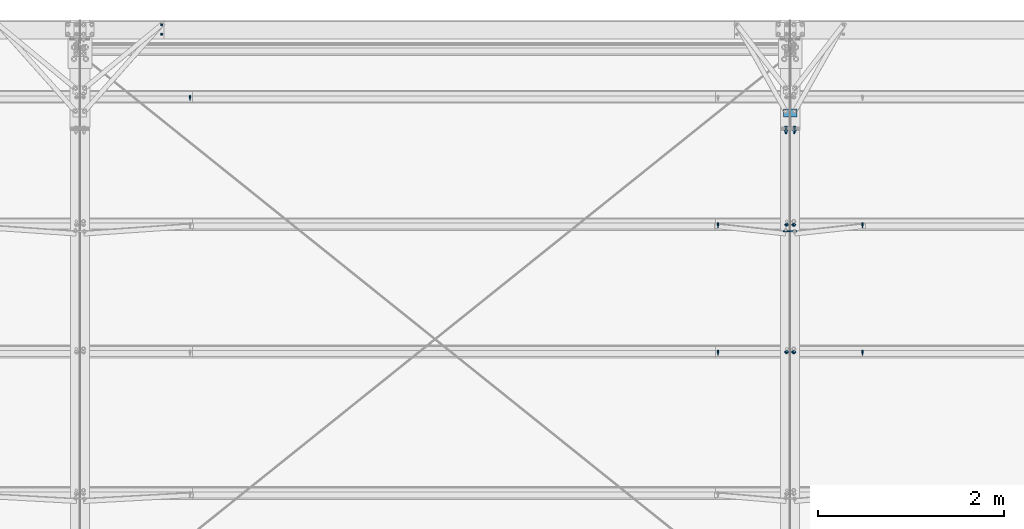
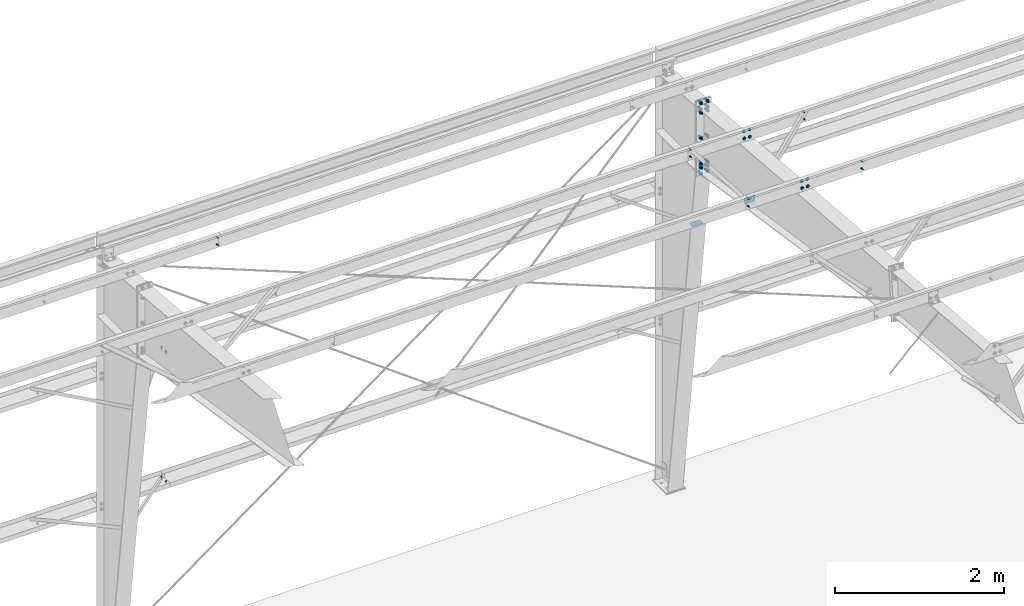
# One storey, part 91 of 185: 14 mechanical fasteners, 4 discrete accessories, 9 elements without a shape of their own.
"""IFC2X3 building model written with IfcOpenShell, lengths in millimetres."""

from ifc_helpers import new_model, si_unit, frame, origin_with_axes, origin_2d_with_axis, place, context, subcontext, project, spatial, polyline, rectangle, circle, outline, extrude, source, transform, mapped, material, type_object, element, aggregate, save


model = new_model("IFC2X3")

# Units and contexts
model_context = context("Model", 3, precision=1e-05, world=origin_with_axes())
body_context = subcontext(model_context, "Body", "Model", "MODEL_VIEW")
ifc_project = project(units=[si_unit("LENGTHUNIT", "METRE", prefix="MILLI"), si_unit("AREAUNIT", "SQUARE_METRE"), si_unit("VOLUMEUNIT", "CUBIC_METRE"), si_unit("MASSUNIT", "GRAM", prefix="KILO"), si_unit("TIMEUNIT", "SECOND"), si_unit("PLANEANGLEUNIT", "RADIAN"), si_unit("SOLIDANGLEUNIT", "STERADIAN"), si_unit("THERMODYNAMICTEMPERATUREUNIT", "DEGREE_CELSIUS"), si_unit("LUMINOUSINTENSITYUNIT", "LUMEN")], contexts=[model_context])

# Site, building, storey
site_placement = place(None, origin_with_axes())
site = spatial("IfcSite", under=ifc_project, at=site_placement, Name="Undefined", CompositionType="ELEMENT")
building_placement = place(site_placement, origin_with_axes())
building = spatial("IfcBuilding", under=site, at=building_placement, Name="Undefined", CompositionType="ELEMENT")
storey_placement = place(building_placement, origin_with_axes())
storey = spatial("IfcBuildingStorey", under=building, at=storey_placement, Name="Undefined", CompositionType="ELEMENT", Elevation=0.0)

# Assembly, mechanical fastener
assembly_1_placement = place(storey_placement, origin_with_axes())
assembly_1 = element("IfcElementAssembly", 1, at=assembly_1_placement, inside=storey, Name="Steel Assembly", AssemblyPlace="NOTDEFINED", PredefinedType="RIGID_FRAME")
ifc_material_1 = material(Name="Undefined")
discrete_accessory_type_1 = type_object("IfcDiscreteAccessoryType", Name="Bolt assembly")
shared_shape_1 = source(origin_with_axes(), body_context, "Body", "SweptSolid", [
    extrude(circle(Radius=7.14374971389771, at=origin_2d_with_axis()), frame((0.0, -1.59000001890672, 0.0), z_axis=(0.0, 1.0, 0.0), x_axis=(1.0, 0.0, 0.0)), (0.0, 0.0, 1.0), 3.3),
    extrude(circle(Radius=13.4937496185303, at=origin_2d_with_axis()), frame((0.0, -5.5587500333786, 0.0), z_axis=(0.0, 1.0, 0.0), x_axis=(1.0, 0.0, 0.0)), (0.0, 0.0, 1.0), 4.0),
    extrude(circle(Radius=22.2250003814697, at=origin_2d_with_axis()), frame((0.0, 1.5900000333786, 0.0), z_axis=(0.0, 1.0, 0.0), x_axis=(1.0, 0.0, 0.0)), (0.0, 0.0, 1.0), 7.9),
    extrude(outline(polyline([(12.8316099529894, 0.0), (6.4158049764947, 11.1125001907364), (-6.4158049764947, 11.1125001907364), (-12.8316099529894, 0.0), (-6.4158049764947, -11.1125001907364), (6.4158049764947, -11.1125001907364), (12.8316099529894, 0.0)])), frame((0.0, 9.5275000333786, 0.0), z_axis=(0.0, 1.0, 0.0), x_axis=(1.0, 0.0, 0.0)), (0.0, 0.0, 1.0), 12.3),
])
mechanical_fastener_1_placement = place(assembly_1_placement, frame((14820.9, 29818.2760586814, 6227.1675784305), z_axis=(-1.0, 0.0, 0.0), x_axis=(0.0, -0.0830454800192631, -0.996545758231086)))
mechanical_fastener_1 = element("IfcMechanicalFastener", 2, at=mechanical_fastener_1_placement, type_object=discrete_accessory_type_1, material=ifc_material_1, Name="Bolt assembly", NominalDiameter=12.6999998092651, NominalLength=38.0999984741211, context=body_context, shape_type="MappedRepresentation", body=[
    mapped(shared_shape_1, transform((0.0, 0.0, 0.0))),
    mapped(shared_shape_1, transform((101.599998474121, 0.0, 0.0))),
])
aggregate(assembly_1, [mechanical_fastener_1])

assembly_2_placement = place(storey_placement, origin_with_axes())
assembly_2 = element("IfcElementAssembly", 3, at=assembly_2_placement, inside=storey, Name="Steel Assembly", AssemblyPlace="NOTDEFINED", PredefinedType="RIGID_FRAME")
mechanical_fastener_2_placement = place(assembly_2_placement, frame((14897.1, 29818.2760586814, 6227.1675784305), z_axis=(-1.0, 0.0, 0.0), x_axis=(0.0, -0.0830454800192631, -0.996545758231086)))
mechanical_fastener_2 = element("IfcMechanicalFastener", 4, at=mechanical_fastener_2_placement, type_object=discrete_accessory_type_1, material=ifc_material_1, Name="Bolt assembly", NominalDiameter=12.6999998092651, NominalLength=38.0999984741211, context=body_context, shape_type="MappedRepresentation", body=[
    mapped(shared_shape_1, transform((0.0, 0.0, 0.0))),
    mapped(shared_shape_1, transform((101.599998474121, 0.0, 0.0))),
])

assembly_3_placement = place(storey_placement, origin_with_axes())
assembly_3 = element("IfcElementAssembly", 5, at=assembly_3_placement, inside=storey, Name="Steel Assembly", AssemblyPlace="NOTDEFINED", PredefinedType="RIGID_FRAME")
mechanical_fastener_3_placement = place(assembly_3_placement, frame((14820.9, 28451.4138966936, 6341.07275883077), z_axis=(-1.0, 0.0, 0.0), x_axis=(0.0, -0.0830454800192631, -0.996545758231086)))
mechanical_fastener_3 = element("IfcMechanicalFastener", 6, at=mechanical_fastener_3_placement, type_object=discrete_accessory_type_1, material=ifc_material_1, Name="Bolt assembly", NominalDiameter=12.6999998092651, NominalLength=38.0999984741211, context=body_context, shape_type="MappedRepresentation", body=[
    mapped(shared_shape_1, transform((0.0, 0.0, 0.0))),
    mapped(shared_shape_1, transform((101.599998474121, 0.0, 0.0))),
])
aggregate(assembly_3, [mechanical_fastener_3])

assembly_4_placement = place(storey_placement, origin_with_axes())
assembly_4 = element("IfcElementAssembly", 7, at=assembly_4_placement, inside=storey, Name="Steel Assembly", AssemblyPlace="NOTDEFINED", PredefinedType="RIGID_FRAME")
mechanical_fastener_4_placement = place(assembly_4_placement, frame((14897.1, 28451.4138966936, 6341.07275883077), z_axis=(-1.0, 0.0, 0.0), x_axis=(0.0, -0.0830454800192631, -0.996545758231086)))
mechanical_fastener_4 = element("IfcMechanicalFastener", 8, at=mechanical_fastener_4_placement, type_object=discrete_accessory_type_1, material=ifc_material_1, Name="Bolt assembly", NominalDiameter=12.6999998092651, NominalLength=38.0999984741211, context=body_context, shape_type="MappedRepresentation", body=[
    mapped(shared_shape_1, transform((0.0, 0.0, 0.0))),
    mapped(shared_shape_1, transform((101.599998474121, 0.0, 0.0))),
])

# Assembly, discrete accessories
assembly_5_placement = place(storey_placement, origin_with_axes())
assembly_5 = element("IfcElementAssembly", 9, at=assembly_5_placement, inside=storey, Name="Steel Assembly", AssemblyPlace="NOTDEFINED", PredefinedType="RIGID_FRAME")
ifc_material_2 = material(Name="STEEL/55")
discrete_accessory_type_2 = type_object("IfcDiscreteAccessoryType", Name="FLANGE BRACE FLIP")
discrete_accessory_1_placement = place(assembly_5_placement, frame((14861.38125, 31003.9296133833, 4163.892), z_axis=(0.0, 1.0, 0.0), x_axis=(1.0, 0.0, 0.0)))
discrete_accessory_1 = element("IfcDiscreteAccessory", 10, at=discrete_accessory_1_placement, type_object=discrete_accessory_type_2, material=ifc_material_2, Name="FLANGE BRACE FLIP", ObjectType="PL1/8\"X2 3/4\"", context=body_context, shape_type="SweptSolid", body=[
    extrude(rectangle(XDim=3.416, YDim=85.725, at=origin_2d_with_axis()), frame((69.8499999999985, 0.0, 0.0), z_axis=(-1.0, 0.0, 0.0), x_axis=(0.0, -1.0, 0.0)), (0.0, 0.0, 1.0), 69.9),
])
discrete_accessory_2_placement = place(assembly_5_placement, frame((14856.61875, 31003.9296133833, 4163.892), z_axis=(0.0, 1.0, 0.0), x_axis=(-1.0, 0.0, 0.0)))
discrete_accessory_2 = element("IfcDiscreteAccessory", 11, at=discrete_accessory_2_placement, type_object=discrete_accessory_type_2, material=ifc_material_2, Name="FLANGE BRACE FLIP", ObjectType="PL1/8\"X2 3/4\"", context=body_context, shape_type="SweptSolid", body=[
    extrude(rectangle(XDim=3.416, YDim=85.725, at=origin_2d_with_axis()), frame((69.8499999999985, 0.0, 0.0), z_axis=(-1.0, 0.0, 0.0), x_axis=(0.0, -1.0, 0.0)), (0.0, 0.0, 1.0), 69.9),
])

assembly_6_placement = place(storey_placement, origin_with_axes())
assembly_6 = element("IfcElementAssembly", 12, at=assembly_6_placement, inside=storey, Name="Steel Assembly", AssemblyPlace="NOTDEFINED", PredefinedType="RIGID_FRAME")
discrete_accessory_3_placement = place(assembly_6_placement, frame((14856.619, 29740.2521226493, 5270.31330232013), z_axis=(0.0, 0.0830454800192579, 0.996545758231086), x_axis=(-1.0, 0.0, 0.0)))
discrete_accessory_3 = element("IfcDiscreteAccessory", 13, at=discrete_accessory_3_placement, type_object=discrete_accessory_type_2, material=ifc_material_2, Name="FLANGE BRACE FLIP", ObjectType="PL1/8\"X2 3/4\"", context=body_context, shape_type="SweptSolid", body=[
    extrude(rectangle(XDim=3.416, YDim=85.725, at=origin_2d_with_axis()), frame((69.8499999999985, 0.0, 0.0), z_axis=(-1.0, 0.0, 0.0), x_axis=(0.0, -1.0, 0.0)), (0.0, 0.0, 1.0), 69.9),
])
discrete_accessory_4_placement = place(assembly_6_placement, frame((14861.381, 29740.2521226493, 5270.31330232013), z_axis=(0.0, 0.0830454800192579, 0.996545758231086), x_axis=(1.0, 0.0, 0.0)))
discrete_accessory_4 = element("IfcDiscreteAccessory", 14, at=discrete_accessory_4_placement, type_object=discrete_accessory_type_2, material=ifc_material_2, Name="FLANGE BRACE FLIP", ObjectType="PL1/8\"X2 3/4\"", context=body_context, shape_type="SweptSolid", body=[
    extrude(rectangle(XDim=3.416, YDim=85.725, at=origin_2d_with_axis()), frame((69.8499999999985, 0.0, 0.0), z_axis=(-1.0, 0.0, 0.0), x_axis=(0.0, -1.0, 0.0)), (0.0, 0.0, 1.0), 69.9),
])
aggregate(assembly_6, [discrete_accessory_3, discrete_accessory_4])

# Assembly, mechanical fastener
assembly_7_placement = place(storey_placement, origin_with_axes())
assembly_7 = element("IfcElementAssembly", 15, at=assembly_7_placement, inside=storey, Name="Steel Assembly", AssemblyPlace="NOTDEFINED", PredefinedType="RIGID_FRAME")
shared_shape_2 = source(origin_with_axes(), body_context, "Body", "SweptSolid", [
    extrude(circle(Radius=7.14374971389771, at=origin_2d_with_axis()), frame((0.0, -1.4900000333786, 0.0), z_axis=(0.0, 1.0, 0.0), x_axis=(1.0, 0.0, 0.0)), (0.0, 0.0, 1.0), 3.2),
    extrude(circle(Radius=7.14374971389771, at=origin_2d_with_axis()), frame((0.0, -1.4900000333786, 0.0), z_axis=(0.0, 1.0, 0.0), x_axis=(1.0, 0.0, 0.0)), (0.0, 0.0, 1.0), 3.2),
    extrude(outline(polyline([(10.9985221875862, 0.0), (5.4992610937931, 9.52499961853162), (-5.4992610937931, 9.52499961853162), (-10.9985221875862, 0.0), (-5.4992610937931, -9.52499961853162), (5.4992610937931, -9.52499961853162), (10.9985221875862, 0.0)])), frame((0.0, -11.1149996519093, 0.0), z_axis=(0.0, 1.0, 0.0), x_axis=(1.0, 0.0, 0.0)), (0.0, 0.0, 1.0), 9.5),
    extrude(circle(Radius=6.34999990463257, at=origin_2d_with_axis()), frame((0.0, -1.59000001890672, 0.0), z_axis=(0.0, 1.0, 0.0), x_axis=(1.0, 0.0, 0.0)), (0.0, 0.0, 1.0), 38.1),
    extrude(outline(polyline([(12.8316099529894, 0.0), (6.4158049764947, 11.1125001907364), (-6.4158049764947, 11.1125001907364), (-12.8316099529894, 0.0), (-6.4158049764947, -11.1125001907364), (6.4158049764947, -11.1125001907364), (12.8316099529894, 0.0)])), frame((0.0, 1.5900000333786, 0.0), z_axis=(0.0, 1.0, 0.0), x_axis=(1.0, 0.0, 0.0)), (0.0, 0.0, 1.0), 12.3),
])
mechanical_fastener_5_placement = place(assembly_7_placement, frame((8115.3, 31953.2, 2286.0), z_axis=(1.0, 0.0, 0.0), x_axis=(0.0, -1.0, 0.0)))
mechanical_fastener_5 = element("IfcMechanicalFastener", 16, at=mechanical_fastener_5_placement, type_object=discrete_accessory_type_1, material=ifc_material_1, Name="Bolt assembly", NominalDiameter=12.6999998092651, NominalLength=38.0999984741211, context=body_context, shape_type="MappedRepresentation", body=[
    mapped(shared_shape_2, transform((0.0, 0.0, 0.0))),
    mapped(shared_shape_2, transform((101.599998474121, 0.0, 0.0))),
])
aggregate(assembly_7, [mechanical_fastener_5])

assembly_8_placement = place(storey_placement, origin_with_axes())
assembly_8 = element("IfcElementAssembly", 17, at=assembly_8_placement, inside=storey, Name="Steel Assembly", AssemblyPlace="NOTDEFINED", PredefinedType="RIGID_FRAME")
mechanical_fastener_6_placement = place(assembly_8_placement, frame((8115.3, 31953.2, 4165.6), z_axis=(1.0, 0.0, 0.0), x_axis=(0.0, -1.0, 0.0)))
mechanical_fastener_6 = element("IfcMechanicalFastener", 18, at=mechanical_fastener_6_placement, type_object=discrete_accessory_type_1, material=ifc_material_1, Name="Bolt assembly", NominalDiameter=12.6999998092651, NominalLength=38.0999984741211, context=body_context, shape_type="MappedRepresentation", body=[
    mapped(shared_shape_2, transform((0.0, 0.0, 0.0))),
    mapped(shared_shape_2, transform((101.599998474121, 0.0, 0.0))),
])
aggregate(assembly_8, [mechanical_fastener_6])

assembly_9_placement = place(storey_placement, origin_with_axes())
assembly_9 = element("IfcElementAssembly", 19, at=assembly_9_placement, inside=storey, Name="Steel Assembly", AssemblyPlace="NOTDEFINED", PredefinedType="RIGID_FRAME")
mechanical_fastener_7_placement = place(assembly_9_placement, frame((8420.1, 31185.1382206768, 6113.2623980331), z_axis=(-1.0, 0.0, 0.0), x_axis=(0.0, -0.0830454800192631, -0.996545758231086)))
mechanical_fastener_7 = element("IfcMechanicalFastener", 20, at=mechanical_fastener_7_placement, type_object=discrete_accessory_type_1, material=ifc_material_1, Name="Bolt assembly", NominalDiameter=12.6999998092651, NominalLength=38.0999984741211, context=body_context, shape_type="MappedRepresentation", body=[
    mapped(shared_shape_2, transform((0.0, 0.0, 0.0))),
    mapped(shared_shape_2, transform((101.599998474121, 0.0, 0.0))),
])
aggregate(assembly_9, [mechanical_fastener_7])

# Mechanical fastener
mechanical_fastener_8_placement = place(assembly_2_placement, frame((14084.3, 29818.2760586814, 6227.1675784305), z_axis=(-1.0, 0.0, 0.0), x_axis=(0.0, -0.0830454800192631, -0.996545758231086)))
mechanical_fastener_8 = element("IfcMechanicalFastener", 21, at=mechanical_fastener_8_placement, type_object=discrete_accessory_type_1, material=ifc_material_1, Name="Bolt assembly", NominalDiameter=12.6999998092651, NominalLength=38.0999984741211, context=body_context, shape_type="MappedRepresentation", body=[
    mapped(shared_shape_2, transform((0.0, 0.0, 0.0))),
    mapped(shared_shape_2, transform((101.599998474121, 0.0, 0.0))),
])

mechanical_fastener_9_placement = place(assembly_2_placement, frame((15633.7, 29818.2760586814, 6227.1675784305), z_axis=(-1.0, 0.0, 0.0), x_axis=(0.0, -0.0830454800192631, -0.996545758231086)))
mechanical_fastener_9 = element("IfcMechanicalFastener", 22, at=mechanical_fastener_9_placement, type_object=discrete_accessory_type_1, material=ifc_material_1, Name="Bolt assembly", NominalDiameter=12.6999998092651, NominalLength=38.0999984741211, context=body_context, shape_type="MappedRepresentation", body=[
    mapped(shared_shape_2, transform((0.0, 0.0, 0.0))),
    mapped(shared_shape_2, transform((101.599998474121, 0.0, 0.0))),
])

aggregate(assembly_2, [mechanical_fastener_2, mechanical_fastener_8, mechanical_fastener_9])

mechanical_fastener_10_placement = place(assembly_4_placement, frame((14084.3, 28451.4138966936, 6341.07275883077), z_axis=(-1.0, 0.0, 0.0), x_axis=(0.0, -0.0830454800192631, -0.996545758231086)))
mechanical_fastener_10 = element("IfcMechanicalFastener", 23, at=mechanical_fastener_10_placement, type_object=discrete_accessory_type_1, material=ifc_material_1, Name="Bolt assembly", NominalDiameter=12.6999998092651, NominalLength=38.0999984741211, context=body_context, shape_type="MappedRepresentation", body=[
    mapped(shared_shape_2, transform((0.0, 0.0, 0.0))),
    mapped(shared_shape_2, transform((101.599998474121, 0.0, 0.0))),
])

mechanical_fastener_11_placement = place(assembly_4_placement, frame((15633.7, 28451.4138966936, 6341.07275883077), z_axis=(-1.0, 0.0, 0.0), x_axis=(0.0, -0.0830454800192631, -0.996545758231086)))
mechanical_fastener_11 = element("IfcMechanicalFastener", 24, at=mechanical_fastener_11_placement, type_object=discrete_accessory_type_1, material=ifc_material_1, Name="Bolt assembly", NominalDiameter=12.6999998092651, NominalLength=38.0999984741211, context=body_context, shape_type="MappedRepresentation", body=[
    mapped(shared_shape_2, transform((0.0, 0.0, 0.0))),
    mapped(shared_shape_2, transform((101.599998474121, 0.0, 0.0))),
])

aggregate(assembly_4, [mechanical_fastener_4, mechanical_fastener_10, mechanical_fastener_11])

shared_shape_3 = source(origin_with_axes(), body_context, "Body", "SweptSolid", [
    extrude(circle(Radius=10.3187494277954, at=origin_2d_with_axis()), frame((0.0, -0.1, 0.0), z_axis=(0.0, 1.0, 0.0), x_axis=(1.0, 0.0, 0.0)), (0.0, 0.0, 1.0), 15.8),
    extrude(circle(Radius=10.3187494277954, at=origin_2d_with_axis()), frame((0.0, -15.775, 0.0), z_axis=(0.0, 1.0, 0.0), x_axis=(1.0, 0.0, 0.0)), (0.0, 0.0, 1.0), 15.9),
    extrude(outline(polyline([(18.3308710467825, 0.0), (9.16543552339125, 15.8750000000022), (-9.16543552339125, 15.8750000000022), (-18.3308710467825, 0.0), (-9.16543552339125, -15.8750000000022), (9.16543552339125, -15.8750000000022), (18.3308710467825, 0.0)])), frame((0.0, -27.78125, 0.0), z_axis=(0.0, 1.0, 0.0), x_axis=(1.0, 0.0, 0.0)), (0.0, 0.0, 1.0), 11.9),
    extrude(circle(Radius=9.52499961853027, at=origin_2d_with_axis()), frame((0.0, -15.8750000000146, 0.0), z_axis=(0.0, 1.0, 0.0), x_axis=(1.0, 0.0, 0.0)), (0.0, 0.0, 1.0), 69.8),
    extrude(circle(Radius=22.2250003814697, at=origin_2d_with_axis()), frame((0.0, 15.7480000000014, 0.0), z_axis=(0.0, 1.0, 0.0), x_axis=(1.0, 0.0, 0.0)), (0.0, 0.0, 1.0), 7.9),
    extrude(outline(polyline([(18.3308710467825, 0.0), (9.16543552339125, 15.8750000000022), (-9.16543552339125, 15.8750000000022), (-18.3308710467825, 0.0), (-9.16543552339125, -15.8750000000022), (9.16543552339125, -15.8750000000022), (18.3308710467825, 0.0)])), frame((0.0, 23.6855000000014, 0.0), z_axis=(0.0, 1.0, 0.0), x_axis=(1.0, 0.0, 0.0)), (0.0, 0.0, 1.0), 19.0),
])
mechanical_fastener_12_placement = place(assembly_5_placement, frame((14859.0, 30837.251, 5522.69198446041), z_axis=(-1.0, 0.0, 0.0), x_axis=(0.0, 0.0, -1.0)))
mechanical_fastener_12 = element("IfcMechanicalFastener", 25, at=mechanical_fastener_12_placement, type_object=discrete_accessory_type_1, material=ifc_material_1, Name="Bolt assembly", NominalDiameter=19.0499992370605, NominalLength=69.8499984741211, context=body_context, shape_type="MappedRepresentation", body=[
    mapped(shared_shape_3, transform((0.0, 0.0, -44.4500007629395))),
    mapped(shared_shape_3, transform((0.0, 0.0, 44.4500007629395))),
])

mechanical_fastener_13_placement = place(assembly_5_placement, frame((14859.0, 30837.251, 5016.27948446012), z_axis=(1.0, 0.0, 0.0), x_axis=(0.0, 0.0, 1.0)))
mechanical_fastener_13 = element("IfcMechanicalFastener", 26, at=mechanical_fastener_13_placement, type_object=discrete_accessory_type_1, material=ifc_material_1, Name="Bolt assembly", NominalDiameter=19.0499992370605, NominalLength=69.8499984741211, context=body_context, shape_type="MappedRepresentation", body=[
    mapped(shared_shape_3, transform((0.0, 0.0, -44.4500007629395))),
    mapped(shared_shape_3, transform((82.5500030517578, 0.0, -44.4500007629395))),
    mapped(shared_shape_3, transform((139.699996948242, 0.0, -44.4500007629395))),
    mapped(shared_shape_3, transform((0.0, 0.0, 44.4500007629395))),
    mapped(shared_shape_3, transform((82.5500030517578, 0.0, 44.4500007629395))),
    mapped(shared_shape_3, transform((139.699996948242, 0.0, 44.4500007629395))),
])

mechanical_fastener_14_placement = place(assembly_5_placement, frame((14859.0, 30837.251, 6029.10448751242), z_axis=(-1.0, 0.0, 0.0), x_axis=(0.0, 0.0, -1.0)))
mechanical_fastener_14 = element("IfcMechanicalFastener", 27, at=mechanical_fastener_14_placement, type_object=discrete_accessory_type_1, material=ifc_material_1, Name="Bolt assembly", NominalDiameter=19.0499992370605, NominalLength=69.8499984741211, context=body_context, shape_type="MappedRepresentation", body=[
    mapped(shared_shape_3, transform((0.0, 0.0, -44.4500007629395))),
    mapped(shared_shape_3, transform((82.5500030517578, 0.0, -44.4500007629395))),
    mapped(shared_shape_3, transform((139.699996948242, 0.0, -44.4500007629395))),
    mapped(shared_shape_3, transform((0.0, 0.0, 44.4500007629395))),
    mapped(shared_shape_3, transform((82.5500030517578, 0.0, 44.4500007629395))),
    mapped(shared_shape_3, transform((139.699996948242, 0.0, 44.4500007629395))),
])

aggregate(assembly_5, [mechanical_fastener_12, discrete_accessory_1, discrete_accessory_2, mechanical_fastener_13, mechanical_fastener_14])

save(model, "model.ifc")
